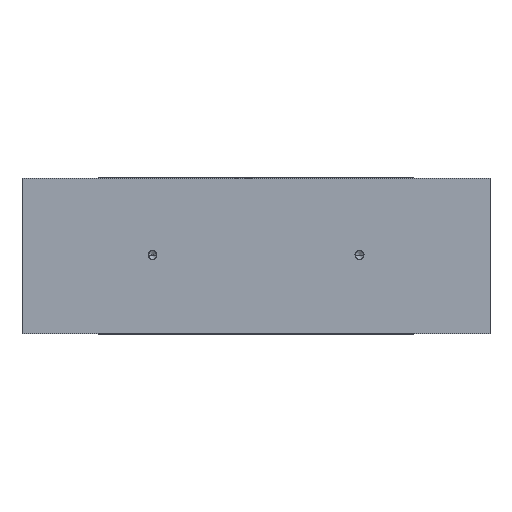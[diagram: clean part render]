
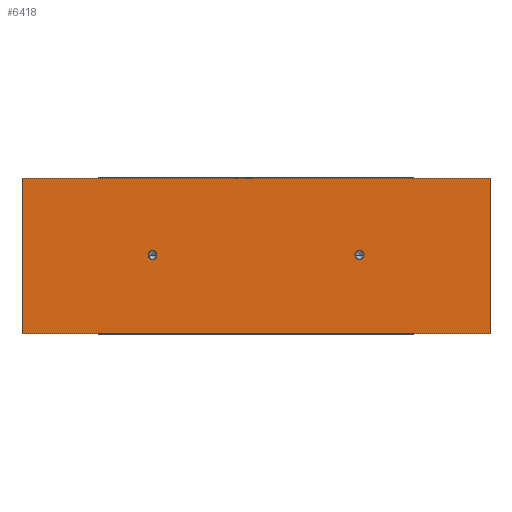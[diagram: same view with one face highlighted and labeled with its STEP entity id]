
A CAD part, top view. The second image highlights one B-rep face of the part: STEP entity #6418.
In plain terms, the highlighted planar face has unit normal (0, 0, 1).
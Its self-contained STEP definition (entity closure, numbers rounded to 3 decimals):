
#46=DIRECTION('',(0.,-1.,0.));
#47=VECTOR('',#46,34.6);
#48=CARTESIAN_POINT('',(0.,34.6,0.));
#49=LINE('',#48,#47);
#169=DIRECTION('',(1.,0.,0.));
#170=VECTOR('',#169,104.);
#171=CARTESIAN_POINT('',(0.,0.,0.));
#172=LINE('',#171,#170);
#320=DIRECTION('',(1.,0.,0.));
#321=VECTOR('',#320,104.);
#322=CARTESIAN_POINT('',(0.,34.6,0.));
#323=LINE('',#322,#321);
#327=CARTESIAN_POINT('',(29.,17.5,0.));
#328=DIRECTION('',(0.,0.,1.));
#329=DIRECTION('',(-1.,0.,0.));
#330=AXIS2_PLACEMENT_3D('',#327,#328,#329);
#335=CARTESIAN_POINT('',(29.,17.5,0.));
#336=DIRECTION('',(0.,0.,1.));
#337=DIRECTION('',(1.,0.,0.));
#338=AXIS2_PLACEMENT_3D('',#335,#336,#337);
#343=CARTESIAN_POINT('',(75.,17.5,0.));
#344=DIRECTION('',(0.,0.,1.));
#345=DIRECTION('',(-1.,0.,0.));
#346=AXIS2_PLACEMENT_3D('',#343,#344,#345);
#351=CARTESIAN_POINT('',(75.,17.5,0.));
#352=DIRECTION('',(0.,0.,1.));
#353=DIRECTION('',(1.,0.,0.));
#354=AXIS2_PLACEMENT_3D('',#351,#352,#353);
#660=DIRECTION('',(0.,-1.,0.));
#661=VECTOR('',#660,34.6);
#662=CARTESIAN_POINT('',(104.,34.6,0.));
#663=LINE('',#662,#661);
#5805=CARTESIAN_POINT('',(0.,0.,0.));
#5807=VERTEX_POINT('',#5805);
#5811=CARTESIAN_POINT('',(0.,34.6,0.));
#5812=VERTEX_POINT('',#5811);
#5813=CARTESIAN_POINT('',(104.,0.,0.));
#5815=VERTEX_POINT('',#5813);
#5819=CARTESIAN_POINT('',(104.,34.6,0.));
#5820=VERTEX_POINT('',#5819);
#5911=CARTESIAN_POINT('',(28.,17.5,0.));
#5912=CARTESIAN_POINT('',(30.,17.5,0.));
#5913=VERTEX_POINT('',#5911);
#5914=VERTEX_POINT('',#5912);
#5921=CARTESIAN_POINT('',(74.,17.5,0.));
#5922=CARTESIAN_POINT('',(76.,17.5,0.));
#5923=VERTEX_POINT('',#5921);
#5924=VERTEX_POINT('',#5922);
#6393=CARTESIAN_POINT('',(0.,34.6,0.));
#6394=DIRECTION('',(0.,0.,1.));
#6395=DIRECTION('',(0.,-1.,0.));
#6396=AXIS2_PLACEMENT_3D('',#6393,#6394,#6395);
#6397=PLANE('',#6396);
#6398=ORIENTED_EDGE('',*,*,#6277,.F.);
#6400=ORIENTED_EDGE('',*,*,#6399,.T.);
#6402=ORIENTED_EDGE('',*,*,#6401,.T.);
#6403=ORIENTED_EDGE('',*,*,#6318,.F.);
#6404=EDGE_LOOP('',(#6398,#6400,#6402,#6403));
#6405=FACE_OUTER_BOUND('',#6404,.F.);
#6407=ORIENTED_EDGE('',*,*,#6406,.T.);
#6409=ORIENTED_EDGE('',*,*,#6408,.T.);
#6410=EDGE_LOOP('',(#6407,#6409));
#6411=FACE_BOUND('',#6410,.F.);
#6413=ORIENTED_EDGE('',*,*,#6412,.T.);
#6415=ORIENTED_EDGE('',*,*,#6414,.T.);
#6416=EDGE_LOOP('',(#6413,#6415));
#6417=FACE_BOUND('',#6416,.F.);
#331=CIRCLE('',#330,1.);
#339=CIRCLE('',#338,1.);
#347=CIRCLE('',#346,1.);
#355=CIRCLE('',#354,1.);
#6277=EDGE_CURVE('',#5812,#5807,#49,.T.);
#6318=EDGE_CURVE('',#5807,#5815,#172,.T.);
#6399=EDGE_CURVE('',#5812,#5820,#323,.T.);
#6401=EDGE_CURVE('',#5820,#5815,#663,.T.);
#6406=EDGE_CURVE('',#5913,#5914,#331,.T.);
#6408=EDGE_CURVE('',#5914,#5913,#339,.T.);
#6412=EDGE_CURVE('',#5923,#5924,#347,.T.);
#6414=EDGE_CURVE('',#5924,#5923,#355,.T.);
#6418=ADVANCED_FACE('',(#6405,#6411,#6417),#6397,.T.);
